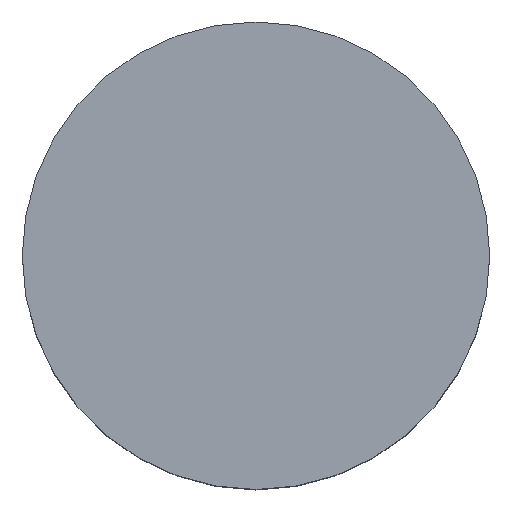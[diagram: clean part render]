
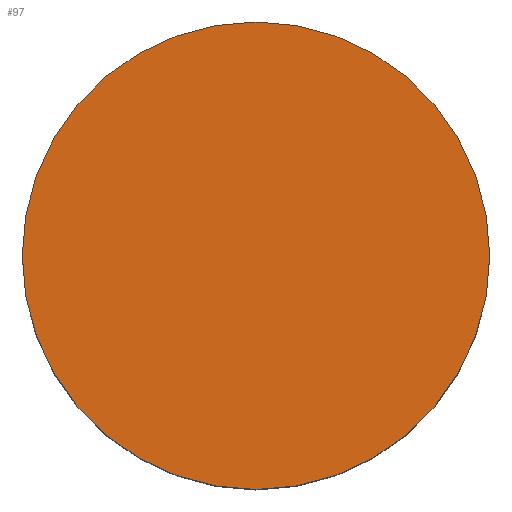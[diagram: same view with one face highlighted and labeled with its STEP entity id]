
A CAD part, top view. The second image highlights one B-rep face of the part: STEP entity #97.
In plain terms, the highlighted planar face has unit normal (0, 0, 1).
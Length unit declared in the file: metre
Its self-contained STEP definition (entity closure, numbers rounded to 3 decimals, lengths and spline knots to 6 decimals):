
#20=PLANE('',#120);
#27=ORIENTED_EDGE('',*,*,#45,.T.);
#45=EDGE_CURVE('',#55,#55,#63,.T.);
#55=VERTEX_POINT('',#168);
#63=CIRCLE('',#118,0.012);
#71=EDGE_LOOP('',(#27));
#83=FACE_BOUND('',#71,.T.);
#97=ADVANCED_FACE('',(#83),#20,.T.);
#118=AXIS2_PLACEMENT_3D('',#167,#135,#136);
#120=AXIS2_PLACEMENT_3D('',#171,#139,#140);
#135=DIRECTION('',(0.,0.,1.));
#136=DIRECTION('',(1.,0.,0.));
#139=DIRECTION('',(0.,0.,1.));
#140=DIRECTION('',(1.,0.,0.));
#167=CARTESIAN_POINT('',(0.226,0.04912,0.0338));
#168=CARTESIAN_POINT('',(0.238,0.04912,0.0338));
#171=CARTESIAN_POINT('',(0.226,0.04912,0.0338));
